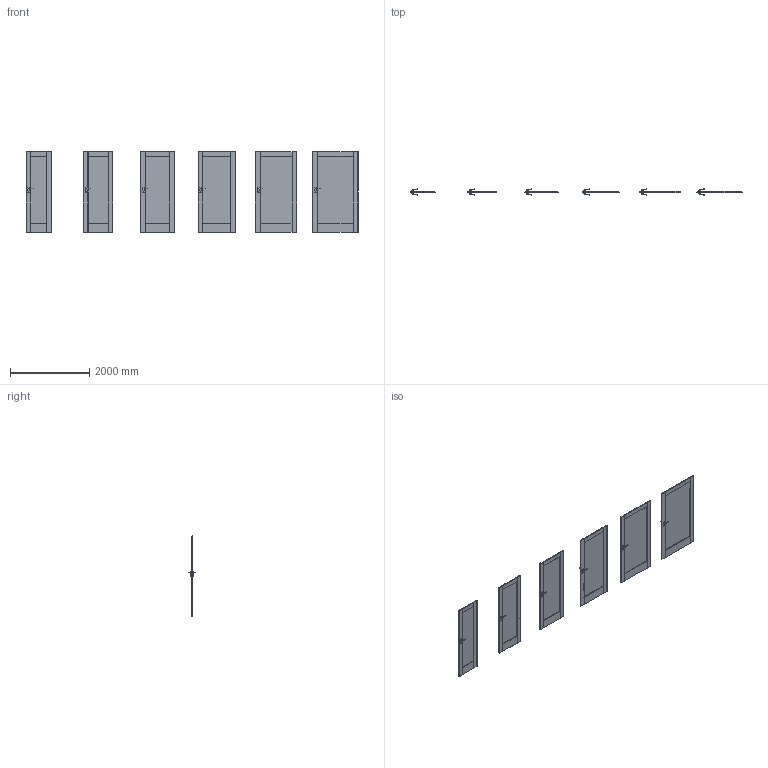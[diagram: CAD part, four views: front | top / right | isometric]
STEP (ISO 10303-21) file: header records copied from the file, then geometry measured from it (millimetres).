
FILE_DESCRIPTION(/* description */ (''),/* implementation_level */ '2;1');
FILE_NAME(/* name */ '049794_A_2-Skrzydło Verte Home model B.5_ polska norma _PN__ przylgowe..stp',/* time_stamp */ '2024-03-25T11:25:29+01:00',/* author */ (''),/* organization */ (''),/* preprocessor_version */ 'ST-DEVELOPER v16',/* originating_system */ 'SIEMENS PLM Software NX 11.0',/* authorisation */ '');
FILE_SCHEMA (('AUTOMOTIVE_DESIGN { 1 0 10303 214 3 1 1 1 }'));
Products named in the file (1): bkni57D4FDF5w7ky
Bounding box: 8394 x 153.27 x 2030.02 mm (x, y, z)
Volume: 178389115.5 mm3; surface area: 24596887.4 mm2
Topology: 30 solids, 30 shells, 1650 faces, 4166 edges, 2456 vertices
Faces by surface type: plane 786, cylinder 492, bspline 204, sphere 168
Entity records: 55907 total; most frequent: CARTESIAN_POINT 17914, ORIENTED_EDGE 7996, DIRECTION 7616, EDGE_CURVE 3998, AXIS2_PLACEMENT_3D 2647, VERTEX_POINT 2456, LINE 2322, VECTOR 2322
